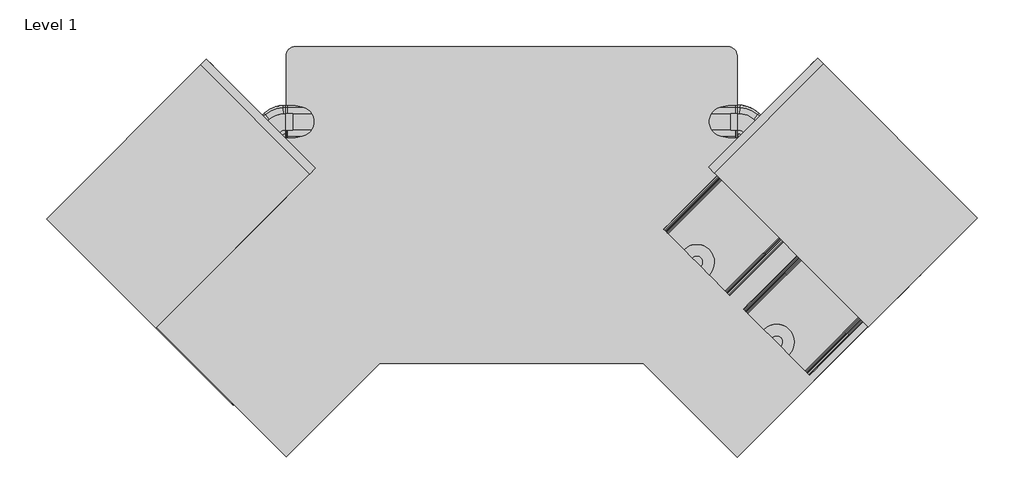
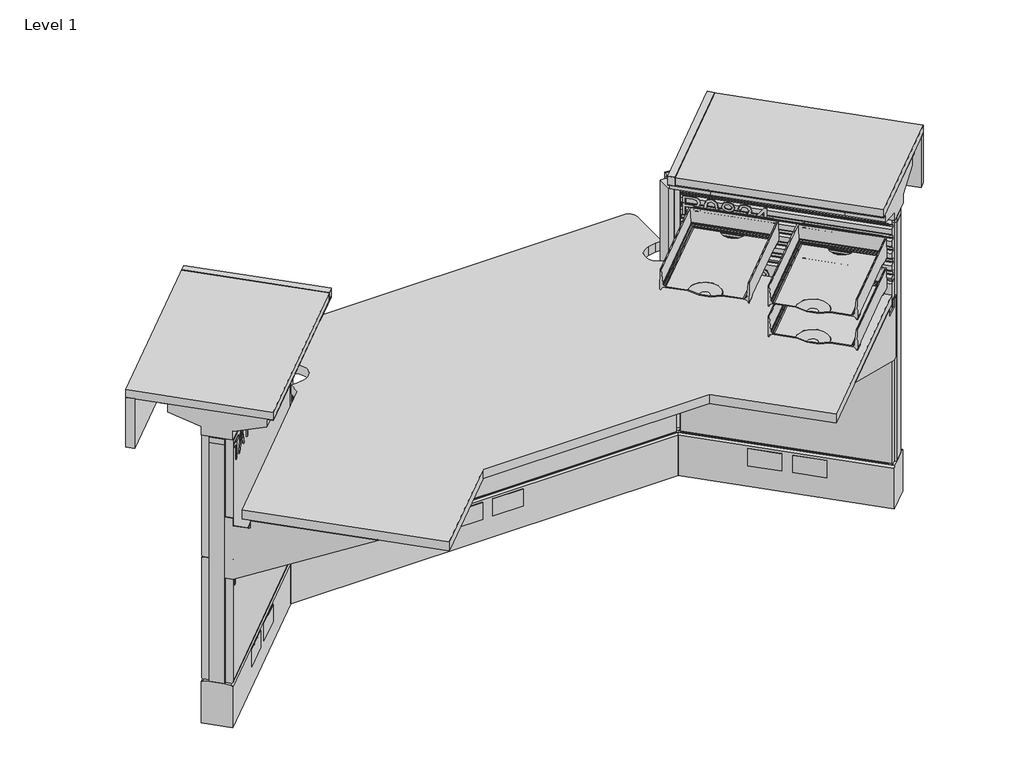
# One storey, incomplete: 34 furniture elements.
"""IFC4 building model written with IfcOpenShell, lengths in millimetres."""

from ifc_helpers import new_model, si_unit, origin, place, context, project, spatial, transform, mapped, element, save
from components import furniture_8cdcebd1, furniture_a86162da, furniture_8828cb60, furniture_083f9362, furniture_85814acf, furniture_deab35e4, furniture_d1243616, furniture_c5aecc28, furniture_9dcc6860, furniture_82e04d0f, furniture_90da91c6, furniture_a03a5918, furniture_24d_left_781ecdd2, furniture_24d_right_b8f5cfed, furniture_68980961, end_cap_54c5994d, lam_24d_48w_0793b51f, left_ebece1d7

model = new_model("IFC4")

# Units and contexts
model_context = context("Model", 3, world=origin())
ifc_project = project(units=[si_unit("LENGTHUNIT", "METRE", prefix="MILLI")], contexts=[model_context])

# Site, building, storey
site = spatial("IfcSite", under=ifc_project)
building = spatial("IfcBuilding", under=site)
storey = spatial("IfcBuildingStorey", under=building, Name="Level 1", Elevation=0.0)

# Furniture
placement = place(None, origin())
furniture_shape = furniture_8cdcebd1(model_context)
element("IfcFurniture", 1, ObjectType="HermanMiller_Ethospace_E1422_TackableTile : 16\"H x 24\"W", at=placement, inside=storey, context=model_context, shape_type="MappedRepresentation", body=[
    mapped(furniture_shape, transform((440.9066151, -550.9886213, 0.0), x_axis=(0.7071067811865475, 0.7071067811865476, 0.0), y_axis=(-0.7071067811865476, 0.7071067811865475, 0.0), z_axis=(0.0, 0.0, 1.0))),
])
furniture_2_shape = furniture_a86162da(model_context)
element("IfcFurniture", 2, ObjectType="HermanMiller_Ethospace_E2830_SqEdgeCounterTop : 7-1/2\"H x 16-3/8\"D x 24\"W", at=placement, inside=storey, context=model_context, shape_type="MappedRepresentation", body=[
    mapped(furniture_2_shape, transform((2168.7678744, -491.3401594, 0.0), x_axis=(0.7071067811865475, -0.7071067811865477, 0.0), y_axis=(0.7071067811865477, 0.7071067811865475, 0.0), z_axis=(0.0, 0.0, 1.0))),
])
element("IfcFurniture", 3, ObjectType="HermanMiller_Ethospace_E2830_SqEdgeCounterTop : 7-1/2\"H x 16-3/8\"D x 24\"W", at=placement, inside=storey, context=model_context, shape_type="MappedRepresentation", body=[
    mapped(furniture_2_shape, transform((383.6568594, -493.7388656, 0.0), x_axis=(0.7071067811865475, 0.7071067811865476, 0.0), y_axis=(-0.7071067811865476, 0.7071067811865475, 0.0), z_axis=(0.0, 0.0, 1.0))),
])
furniture_3_shape = furniture_8828cb60(model_context)
element("IfcFurniture", 4, ObjectType="HermanMiller_Ethospace_E2827_CounterTopSupport : 24\"W W/Light", at=placement, inside=storey, context=model_context, shape_type="MappedRepresentation", body=[
    mapped(furniture_3_shape, transform((2124.9891744, -535.1188595, 0.0), x_axis=(0.7071067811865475, -0.7071067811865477, 0.0), y_axis=(0.7071067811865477, 0.7071067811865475, 0.0), z_axis=(0.0, 0.0, 1.0))),
])
element("IfcFurniture", 5, ObjectType="HermanMiller_Ethospace_E2827_CounterTopSupport : 24\"W W/Light", at=placement, inside=storey, context=model_context, shape_type="MappedRepresentation", body=[
    mapped(furniture_3_shape, transform((429.0179795, -535.9376856, 0.0), x_axis=(0.7071067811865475, 0.7071067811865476, 0.0), y_axis=(-0.7071067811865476, 0.7071067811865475, 0.0), z_axis=(0.0, 0.0, 1.0))),
])
furniture_4_shape = furniture_083f9362(model_context)
element("IfcFurniture", 6, ObjectType="HermanMiller_Ethospace_E1420_FaceTile : Ptd 20\"H x 48\"W", at=placement, inside=storey, context=model_context, shape_type="MappedRepresentation", body=[
    mapped(furniture_4_shape, transform((1275.1435, -268.2062139, 0.0), x_axis=(-1.0, 0.0, 0.0), y_axis=(0.0, -1.0, 0.0), z_axis=(0.0, 0.0, 1.0))),
])
element("IfcFurniture", 7, ObjectType="HermanMiller_Ethospace_E1420_FaceTile : Ptd 20\"H x 48\"W", at=placement, inside=storey, context=model_context, shape_type="MappedRepresentation", body=[
    mapped(furniture_4_shape, transform((1275.01142, -331.7417861, 0.0), x_axis=(1.0, 0.0, 0.0), y_axis=(0.0, 1.0, 0.0), z_axis=(0.0, 0.0, 1.0))),
])
furniture_5_shape = furniture_85814acf(model_context)
element("IfcFurniture", 8, ObjectType="HermanMiller_Ethospace_E1116_FrameTransactionWorkSurface : 38\"H x 48\"W-H", at=placement, inside=storey, context=model_context, shape_type="MappedRepresentation", body=[
    mapped(furniture_5_shape, transform((1275.1435, -299.96638, 0.0), x_axis=(1.0, 0.0, 0.0), y_axis=(0.0, 1.0, 0.0), z_axis=(0.0, 0.0, 1.0))),
])
furniture_6_shape = furniture_deab35e4(model_context)
element("IfcFurniture", 9, ObjectType="HermanMiller_Ethospace_E1425_RailTile : 08\"H x 24\"W", at=placement, inside=storey, context=model_context, shape_type="MappedRepresentation", body=[
    mapped(furniture_6_shape, transform((2115.8530151, -544.2524787, 0.0), x_axis=(0.7071067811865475, -0.7071067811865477, 0.0), y_axis=(0.7071067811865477, 0.7071067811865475, 0.0), z_axis=(0.0, 0.0, 1.0))),
])
furniture_7_shape = furniture_d1243616(model_context)
element("IfcFurniture", 10, ObjectType="HermanMiller_Ethospace_E1420_FaceTile : Ptd 16\"H x 24\"W", at=placement, inside=storey, context=model_context, shape_type="MappedRepresentation", body=[
    mapped(furniture_7_shape, transform((2154.0207213, -506.0866649, 0.0), x_axis=(-0.7071067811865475, 0.7071067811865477, 0.0), y_axis=(-0.7071067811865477, -0.7071067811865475, 0.0), z_axis=(0.0, 0.0, 1.0))),
])
element("IfcFurniture", 11, ObjectType="HermanMiller_Ethospace_E1420_FaceTile : Ptd 16\"H x 24\"W", at=placement, inside=storey, context=model_context, shape_type="MappedRepresentation", body=[
    mapped(furniture_7_shape, transform((2109.1178187, -550.9876751, 0.0), x_axis=(0.7071067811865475, -0.7071067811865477, 0.0), y_axis=(0.7071067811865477, 0.7071067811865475, 0.0), z_axis=(0.0, 0.0, 1.0))),
])
element("IfcFurniture", 12, ObjectType="HermanMiller_Ethospace_E1420_FaceTile : Ptd 16\"H x 24\"W", at=placement, inside=storey, context=model_context, shape_type="MappedRepresentation", body=[
    mapped(furniture_7_shape, transform((396.0056049, -506.0882587, 0.0), x_axis=(-0.7071067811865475, -0.7071067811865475, 0.0), y_axis=(0.7071067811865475, -0.7071067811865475, 0.0), z_axis=(0.0, 0.0, 1.0))),
])
element("IfcFurniture", 13, ObjectType="HermanMiller_Ethospace_E1420_FaceTile : Ptd 16\"H x 24\"W", at=placement, inside=storey, context=model_context, shape_type="MappedRepresentation", body=[
    mapped(furniture_7_shape, transform((440.9066151, -550.9886213, 0.0), x_axis=(0.7071067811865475, 0.7071067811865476, 0.0), y_axis=(-0.7071067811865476, 0.7071067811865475, 0.0), z_axis=(0.0, 0.0, 1.0))),
])
furniture_8_shape = furniture_c5aecc28(model_context)
element("IfcFurniture", 14, ObjectType="HermanMiller_Ethospace_E1420_FaceTile : Ptd 08\"H x 24\"W", at=placement, inside=storey, context=model_context, shape_type="MappedRepresentation", body=[
    mapped(furniture_8_shape, transform((2109.1178187, -550.9876751, 0.0), x_axis=(0.7071067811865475, -0.7071067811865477, 0.0), y_axis=(0.7071067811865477, 0.7071067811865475, 0.0), z_axis=(0.0, 0.0, 1.0))),
])
furniture_9_shape = furniture_9dcc6860(model_context)
element("IfcFurniture", 15, ObjectType="HermanMiller_Ethospace_E1420_FaceTile : Ptd 16\"H x 24\"W", at=placement, inside=storey, context=model_context, shape_type="MappedRepresentation", body=[
    mapped(furniture_9_shape, transform((2154.0207213, -506.0866649, 0.0), x_axis=(-0.7071067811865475, 0.7071067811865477, 0.0), y_axis=(-0.7071067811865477, -0.7071067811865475, 0.0), z_axis=(0.0, 0.0, 1.0))),
])
element("IfcFurniture", 16, ObjectType="HermanMiller_Ethospace_E1420_FaceTile : Ptd 16\"H x 24\"W", at=placement, inside=storey, context=model_context, shape_type="MappedRepresentation", body=[
    mapped(furniture_9_shape, transform((396.0056049, -506.0882587, 0.0), x_axis=(-0.7071067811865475, -0.7071067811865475, 0.0), y_axis=(0.7071067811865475, -0.7071067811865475, 0.0), z_axis=(0.0, 0.0, 1.0))),
])
furniture_10_shape = furniture_82e04d0f(model_context)
element("IfcFurniture", 17, ObjectType="HermanMiller_Ethospace_E1109_Frame : 38\"H x 24\"W-H", at=placement, inside=storey, context=model_context, shape_type="MappedRepresentation", body=[
    mapped(furniture_10_shape, transform((2131.0317721, -529.0762617, 0.0), x_axis=(0.7071067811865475, -0.7071067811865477, 0.0), y_axis=(0.7071067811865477, 0.7071067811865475, 0.0), z_axis=(0.0, 0.0, 1.0))),
])
element("IfcFurniture", 18, ObjectType="HermanMiller_Ethospace_E1109_Frame : 38\"H x 24\"W-H", at=placement, inside=storey, context=model_context, shape_type="MappedRepresentation", body=[
    mapped(furniture_10_shape, transform((418.4559705, -528.5379767, 0.0), x_axis=(0.7071067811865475, 0.7071067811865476, 0.0), y_axis=(-0.7071067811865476, 0.7071067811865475, 0.0), z_axis=(0.0, 0.0, 1.0))),
])
furniture_11_shape = furniture_90da91c6(model_context)
element("IfcFurniture", 19, ObjectType="HermanMiller_ThrivePortfolio_Y7216_PaperTray : 3\"H x 12\"D x 10\"W", at=placement, inside=storey, context=model_context, shape_type="MappedRepresentation", body=[
    mapped(furniture_11_shape, transform((2098.7435557, -785.9996667, 0.0), x_axis=(0.7071067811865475, -0.7071067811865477, 0.0), y_axis=(0.7071067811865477, 0.7071067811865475, 0.0), z_axis=(0.0, 0.0, 1.0))),
])
element("IfcFurniture", 20, ObjectType="HermanMiller_ThrivePortfolio_Y7216_PaperTray : 3\"H x 12\"D x 10\"W", at=placement, inside=storey, context=model_context, shape_type="MappedRepresentation", body=[
    mapped(furniture_11_shape, transform((1883.2194757, -570.4730467, 0.0), x_axis=(0.7071067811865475, -0.7071067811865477, 0.0), y_axis=(0.7071067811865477, 0.7071067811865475, 0.0), z_axis=(0.0, 0.0, 1.0))),
])
furniture_12_shape = furniture_a03a5918(model_context)
element("IfcFurniture", 21, ObjectType="HermanMiller_ThrivePortfolio_Y7216_PaperTray : 3\"H x 12\"D x 10\"W", at=placement, inside=storey, context=model_context, shape_type="MappedRepresentation", body=[
    mapped(furniture_12_shape, transform((2098.7435557, -785.9996667, 0.0), x_axis=(0.7071067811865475, -0.7071067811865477, 0.0), y_axis=(0.7071067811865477, 0.7071067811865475, 0.0), z_axis=(0.0, 0.0, 1.0))),
])
furniture_24d_left_shape = furniture_24d_left_781ecdd2(model_context)
element("IfcFurniture", 22, ObjectType="HermanMiller_Ethospace_E2393_WorkSurfaceSupport : 24D Left", at=placement, inside=storey, context=model_context, shape_type="MappedRepresentation", body=[
    mapped(furniture_24d_left_shape, transform((398.2503942, -939.3846942, 0.0), x_axis=(0.7071067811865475, 0.7071067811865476, 0.0), y_axis=(-0.7071067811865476, 0.7071067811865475, 0.0), z_axis=(0.0, 0.0, 1.0))),
])
element("IfcFurniture", 23, ObjectType="HermanMiller_Ethospace_E2393_WorkSurfaceSupport : 24D Left", at=placement, inside=storey, context=model_context, shape_type="MappedRepresentation", body=[
    mapped(furniture_24d_left_shape, transform((667.03194, -576.3133, 0.0), x_axis=(1.0, 0.0, 0.0), y_axis=(0.0, 1.0, 0.0), z_axis=(0.0, 0.0, 1.0))),
])
furniture_24d_right_shape = furniture_24d_right_b8f5cfed(model_context)
element("IfcFurniture", 24, ObjectType="HermanMiller_Ethospace_E2393_WorkSurfaceSupport : 24D Right", at=placement, inside=storey, context=model_context, shape_type="MappedRepresentation", body=[
    mapped(furniture_24d_right_shape, transform((2150.8072458, -938.5185542, 0.0), x_axis=(0.7071067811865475, -0.7071067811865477, 0.0), y_axis=(0.7071067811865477, 0.7071067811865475, 0.0), z_axis=(0.0, 0.0, 1.0))),
])
element("IfcFurniture", 25, ObjectType="HermanMiller_Ethospace_E2393_WorkSurfaceSupport : 24D Right", at=placement, inside=storey, context=model_context, shape_type="MappedRepresentation", body=[
    mapped(furniture_24d_right_shape, transform((1883.18394, -576.3133, 0.0), x_axis=(1.0, 0.0, 0.0), y_axis=(0.0, 1.0, 0.0), z_axis=(0.0, 0.0, 1.0))),
])
furniture_13_shape = furniture_68980961(model_context)
element("IfcFurniture", 26, ObjectType="HermanMiller_Ethospace_E1221_135DegreeConnector : 38\"H", at=placement, inside=storey, context=model_context, shape_type="MappedRepresentation", body=[
    mapped(furniture_13_shape, transform((1906.7136354, -376.7202162, 0.0), x_axis=(1.0, 0.0, 0.0), y_axis=(0.0, 1.0, 0.0), z_axis=(0.0, 0.0, 1.0))),
])
element("IfcFurniture", 27, ObjectType="HermanMiller_Ethospace_E1221_135DegreeConnector : 38\"H", at=placement, inside=storey, context=model_context, shape_type="MappedRepresentation", body=[
    mapped(furniture_13_shape, transform((703.3518528, -352.1524894, 0.0), x_axis=(0.7071067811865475, 0.7071067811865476, 0.0), y_axis=(-0.7071067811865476, 0.7071067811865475, 0.0), z_axis=(0.0, 0.0, 1.0))),
])
end_cap_shape = end_cap_54c5994d(model_context)
element("IfcFurniture", 28, ObjectType="HermanMiller_Ethospace_E2829_CounterTopSupportEndCap : End Cap", at=placement, inside=storey, context=model_context, shape_type="MappedRepresentation", body=[
    mapped(end_cap_shape, transform((1967.83452, -342.0445149, 0.0), x_axis=(-0.7071067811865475, 0.7071067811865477, 0.0), y_axis=(-0.7071067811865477, -0.7071067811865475, 0.0), z_axis=(0.0, 0.0, 1.0))),
])
element("IfcFurniture", 29, ObjectType="HermanMiller_Ethospace_E2829_CounterTopSupportEndCap : End Cap", at=placement, inside=storey, context=model_context, shape_type="MappedRepresentation", body=[
    mapped(end_cap_shape, transform((2318.06496, -692.2749549, 0.0), x_axis=(-0.7071067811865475, 0.7071067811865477, 0.0), y_axis=(-0.7071067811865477, -0.7071067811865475, 0.0), z_axis=(0.0, 0.0, 1.0))),
])
element("IfcFurniture", 30, ObjectType="HermanMiller_Ethospace_E2829_CounterTopSupportEndCap : End Cap", at=placement, inside=storey, context=model_context, shape_type="MappedRepresentation", body=[
    mapped(end_cap_shape, transform((235.9410949, -693.09234, 0.0), x_axis=(-0.7071067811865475, -0.7071067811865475, 0.0), y_axis=(0.7071067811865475, -0.7071067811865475, 0.0), z_axis=(0.0, 0.0, 1.0))),
])
element("IfcFurniture", 31, ObjectType="HermanMiller_Ethospace_E2829_CounterTopSupportEndCap : End Cap", at=placement, inside=storey, context=model_context, shape_type="MappedRepresentation", body=[
    mapped(end_cap_shape, transform((584.1700149, -344.86342, 0.0), x_axis=(-0.7071067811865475, -0.7071067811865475, 0.0), y_axis=(0.7071067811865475, -0.7071067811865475, 0.0), z_axis=(0.0, 0.0, 1.0))),
])
lam_24d_48w_shape = lam_24d_48w_0793b51f(model_context)
element("IfcFurniture", 32, ObjectType="HermanMiller_Ethospace_EWS71_F_Sq-EdgeDouble135TransactionWorkSurface_FrameAttached : Lam 24D 48W", at=placement, inside=storey, context=model_context, shape_type="MappedRepresentation", body=[
    mapped(lam_24d_48w_shape, transform((1122.70794, -524.8194496, 0.0), x_axis=(1.0, 0.0, 0.0), y_axis=(0.0, 1.0, 0.0), z_axis=(0.0, 0.0, 1.0))),
])
left_shape = left_ebece1d7(model_context)
element("IfcFurniture", 33, ObjectType="HermanMiller_Ethospace_E2833_SqEdgeCounterTopEndCap : Left", at=placement, inside=storey, context=model_context, shape_type="MappedRepresentation", body=[
    mapped(left_shape, transform((1960.8878182, -283.4626431, 0.0), x_axis=(0.7071067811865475, -0.7071067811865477, 0.0), y_axis=(0.7071067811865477, 0.7071067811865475, 0.0), z_axis=(0.0, 0.0, 1.0))),
])
element("IfcFurniture", 34, ObjectType="HermanMiller_Ethospace_E2833_SqEdgeCounterTopEndCap : Right", at=placement, inside=storey, context=model_context, shape_type="MappedRepresentation", body=[
    mapped(left_shape, transform((591.1150631, -286.2806618, 0.0), x_axis=(0.7071067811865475, 0.7071067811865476, 0.0), y_axis=(-0.7071067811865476, 0.7071067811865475, 0.0), z_axis=(0.0, 0.0, 1.0))),
])

save(model, "model.ifc")
